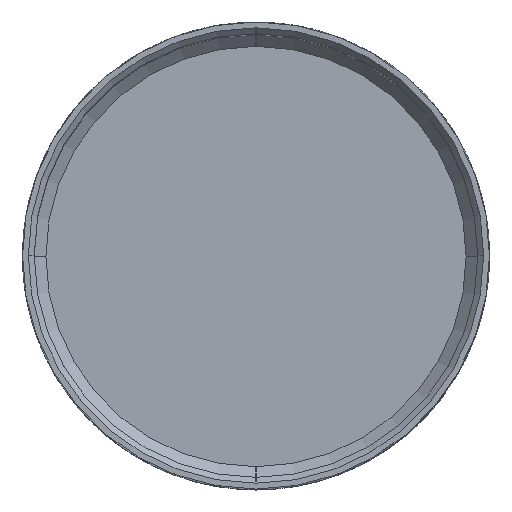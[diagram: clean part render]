
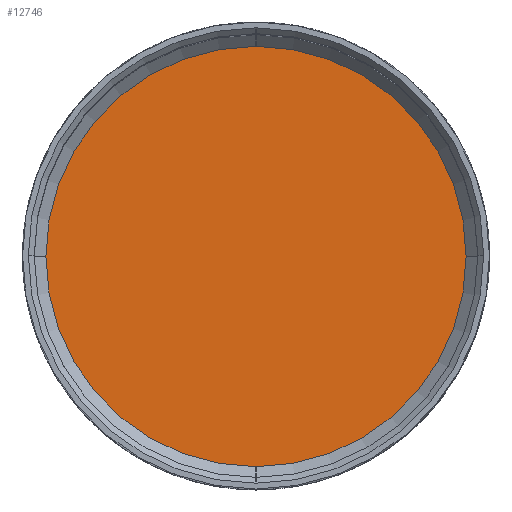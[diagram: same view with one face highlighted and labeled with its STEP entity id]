
A CAD part, top view. The second image highlights one B-rep face of the part: STEP entity #12746.
In plain terms, the highlighted planar face has unit normal (0, 0, 1).
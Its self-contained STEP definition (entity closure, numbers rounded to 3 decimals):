
#2402=CIRCLE('',#13143,35.99);
#2404=CIRCLE('',#13147,35.99);
#2406=CIRCLE('',#13151,35.99);
#2408=CIRCLE('',#13155,35.99);
#2474=FACE_OUTER_BOUND('',#2997,.T.);
#2997=EDGE_LOOP('',(#8908,#8909,#8910,#8911,#8912,#8913,#8914,#8915));
#3770=LINE('',#15250,#4248);
#3775=LINE('',#15264,#4253);
#3779=LINE('',#15276,#4257);
#3783=LINE('',#15288,#4261);
#4248=VECTOR('',#13687,10.);
#4253=VECTOR('',#13700,10.);
#4257=VECTOR('',#13712,10.);
#4261=VECTOR('',#13724,10.);
#4726=VERTEX_POINT('',#15247);
#4727=VERTEX_POINT('',#15249);
#4730=VERTEX_POINT('',#15256);
#4732=VERTEX_POINT('',#15262);
#4734=VERTEX_POINT('',#15268);
#4736=VERTEX_POINT('',#15274);
#4738=VERTEX_POINT('',#15280);
#4740=VERTEX_POINT('',#15286);
#6370=EDGE_CURVE('',#4726,#4727,#3770,.T.);
#6374=EDGE_CURVE('',#4730,#4726,#2402,.T.);
#6377=EDGE_CURVE('',#4732,#4730,#3775,.T.);
#6380=EDGE_CURVE('',#4734,#4732,#2404,.T.);
#6383=EDGE_CURVE('',#4736,#4734,#3779,.T.);
#6386=EDGE_CURVE('',#4738,#4736,#2406,.T.);
#6389=EDGE_CURVE('',#4740,#4738,#3783,.T.);
#6391=EDGE_CURVE('',#4727,#4740,#2408,.T.);
#8908=ORIENTED_EDGE('',*,*,#6370,.F.);
#8909=ORIENTED_EDGE('',*,*,#6374,.F.);
#8910=ORIENTED_EDGE('',*,*,#6377,.F.);
#8911=ORIENTED_EDGE('',*,*,#6380,.F.);
#8912=ORIENTED_EDGE('',*,*,#6383,.F.);
#8913=ORIENTED_EDGE('',*,*,#6386,.F.);
#8914=ORIENTED_EDGE('',*,*,#6389,.F.);
#8915=ORIENTED_EDGE('',*,*,#6391,.F.);
#12657=PLANE('',#13165);
#12746=ADVANCED_FACE('',(#2474),#12657,.T.);
#13143=AXIS2_PLACEMENT_3D('',#15258,#13693,#13694);
#13147=AXIS2_PLACEMENT_3D('',#15270,#13705,#13706);
#13151=AXIS2_PLACEMENT_3D('',#15282,#13717,#13718);
#13155=AXIS2_PLACEMENT_3D('',#15291,#13728,#13729);
#13165=AXIS2_PLACEMENT_3D('',#22276,#13783,#13784);
#13687=DIRECTION('',(1.,0.,0.));
#13693=DIRECTION('center_axis',(0.,0.,-1.));
#13694=DIRECTION('ref_axis',(0.,1.,0.));
#13700=DIRECTION('',(0.,1.,0.));
#13705=DIRECTION('center_axis',(0.,0.,-1.));
#13706=DIRECTION('ref_axis',(-1.,0.,0.));
#13712=DIRECTION('',(-1.,0.,0.));
#13717=DIRECTION('center_axis',(0.,0.,-1.));
#13718=DIRECTION('ref_axis',(0.,-1.,0.));
#13724=DIRECTION('',(0.,-1.,0.));
#13728=DIRECTION('center_axis',(0.,0.,-1.));
#13729=DIRECTION('ref_axis',(1.,0.,0.));
#13783=DIRECTION('center_axis',(0.,0.,1.));
#13784=DIRECTION('ref_axis',(1.,0.,0.));
#15247=CARTESIAN_POINT('',(-0.01,36.,2.));
#15249=CARTESIAN_POINT('',(0.01,36.,2.));
#15250=CARTESIAN_POINT('',(0.005,36.,2.));
#15256=CARTESIAN_POINT('',(-36.,0.01,2.));
#15258=CARTESIAN_POINT('Origin',(-0.01,0.01,
2.));
#15262=CARTESIAN_POINT('',(-36.,-0.01,2.));
#15264=CARTESIAN_POINT('',(-36.,0.005,2.));
#15268=CARTESIAN_POINT('',(-0.01,-36.,2.));
#15270=CARTESIAN_POINT('Origin',(-0.01,-0.01,
2.));
#15274=CARTESIAN_POINT('',(0.01,-36.,2.));
#15276=CARTESIAN_POINT('',(-0.005,-36.,2.));
#15280=CARTESIAN_POINT('',(36.,-0.01,2.));
#15282=CARTESIAN_POINT('Origin',(0.01,-0.01,
2.));
#15286=CARTESIAN_POINT('',(36.,0.01,2.));
#15288=CARTESIAN_POINT('',(36.,-0.005,2.));
#15291=CARTESIAN_POINT('Origin',(0.01,0.01,
2.));
#22276=CARTESIAN_POINT('Origin',(0.,0.,
2.));
